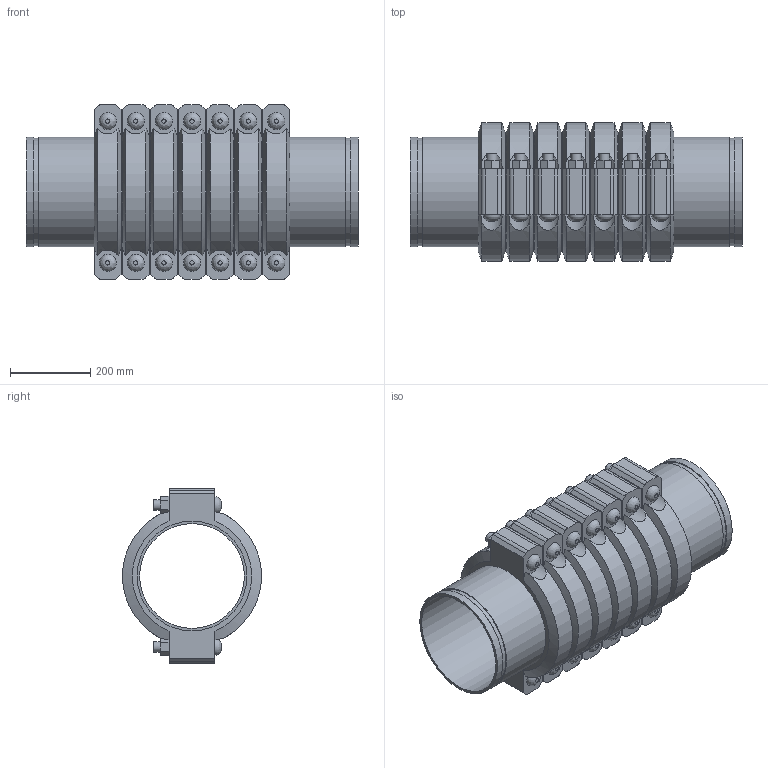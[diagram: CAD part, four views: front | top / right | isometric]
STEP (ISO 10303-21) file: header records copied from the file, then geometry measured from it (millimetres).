
FILE_DESCRIPTION(/* description */ ('VIC SS EXPANSION JOINT 7 COUPLINGS COMPRESSED STYLE 155P (OGS) (POTABLE WATER) ','CAx-IF Rec.Pracs.---Representation and Presentation of Product Manufacturing Information (PMI)---4.0---2014-10-13'),/* implementation_level */ '2;1');
FILE_NAME(/* name */ 'C:\Users\kkamble\AppData\Roaming\Autodesk\ApplicationPlugins\Victaulic.Temp\A968\Victaulic_SS_Expansion Joint_Compressed_7 Couplings_Style 155P (OGS)-Potable Water_7 Coup_Comp_10 (250).stp',/* time_stamp */ '2021-07-16T17:16:17+06:00',/* author */ ('kkamble'),/* organization */ ('Victaulic'),/* preprocessor_version */ 'ST-DEVELOPER v17.2',/* originating_system */ 'Autodesk Inventor 2019',/* authorisation */ '');
FILE_SCHEMA (('AP242_MANAGED_MODEL_BASED_3D_ENGINEERING_MIM_LF { 1 0 10303 442 1 1 4 }'));
Length unit declared in the file: inch
Products named in the file (4): 155P-10.0; Nipple-10.0; Nipple-10.0_1; 077-10.0
Assembly tree (15 placements, depth 2):
  155P-10.0
    Nipple-10.0  x2
    Nipple-10.0_1  x6
    077-10.0  x7
Bounding box: 825.5 x 344.9 x 435.1 mm (x, y, z)
Volume: 24432316.6 mm3; surface area: 3439921.4 mm2
Topology: 15 solids, 29 shells, 495 faces, 1213 edges, 850 vertices
Faces by surface type: plane 286, cylinder 167, cone 28, bspline 14
Full cylindrical faces by diameter (mm): 25.4 x28, 27.432 x14, 260.35 x8, 268.275 x16, 273.05 x31
Entity records: 2993 total; most frequent: CARTESIAN_POINT 665, DIRECTION 467, ORIENTED_EDGE 398, EDGE_CURVE 199, AXIS2_PLACEMENT_3D 190, VERTEX_POINT 142, EDGE_LOOP 105, CIRCLE 92
